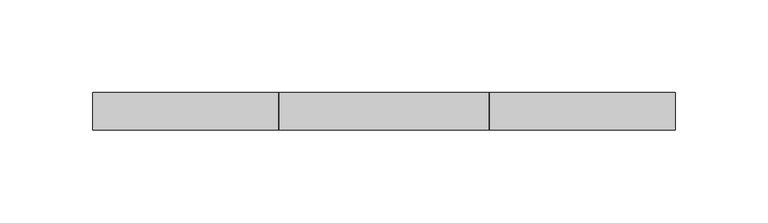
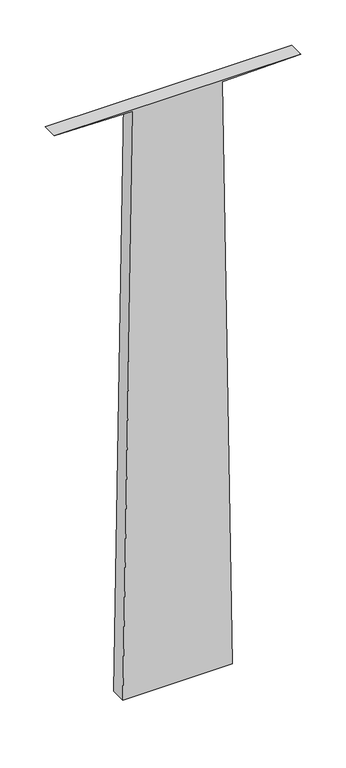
"""IFC4 building model written with IfcOpenShell, lengths in millimetres: plate geometry, 空系统嵌板 : 空."""

from ifc_helpers import new_model, si_unit, frame, origin, place, context, project, spatial, polyline, outline, extrude, source, transform, mapped, element, save


def plate_6a16cba0(model_context):
    return source(origin(), model_context, "Body", "SweptSolid", [
        extrude(outline(polyline([(0.0, -69.7812048), (0.0, 69.7812048), (788.3546872, 56.7703042), (790.0048492, 156.7566881), (790.0048492, -156.7566881), (788.3546872, -56.7703042), (0.0, -69.7812048)])), frame((0.0, -10.0, 0.0), z_axis=(0.0, 1.0, 0.0), x_axis=(0.0, 0.0, 1.0)), (0.0, 0.0, 1.0), 20.0),
    ])


if __name__ == "__main__":
    model = new_model("IFC4")
    model_context = context("Model", 3, world=origin())
    ifc_project = project(units=[si_unit("LENGTHUNIT", "METRE", prefix="MILLI")], contexts=[model_context])
    site = spatial("IfcSite", under=ifc_project)
    building = spatial("IfcBuilding", under=site)
    placement = place(None, origin())
    plate_shape = plate_6a16cba0(model_context)
    element("IfcPlate", 1, ObjectType="空系统嵌板 : 空", at=placement, inside=building, context=model_context, shape_type="MappedRepresentation", body=[
        mapped(plate_shape, transform((0.0, 0.0, 0.0), x_axis=(1.0, 0.0, 0.0), y_axis=(0.0, 1.0, 0.0), z_axis=(0.0, 0.0, 1.0))),
    ])
    save(model, "model.ifc")
